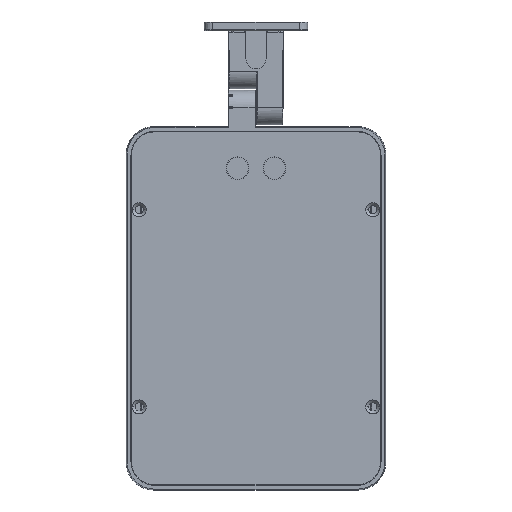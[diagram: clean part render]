
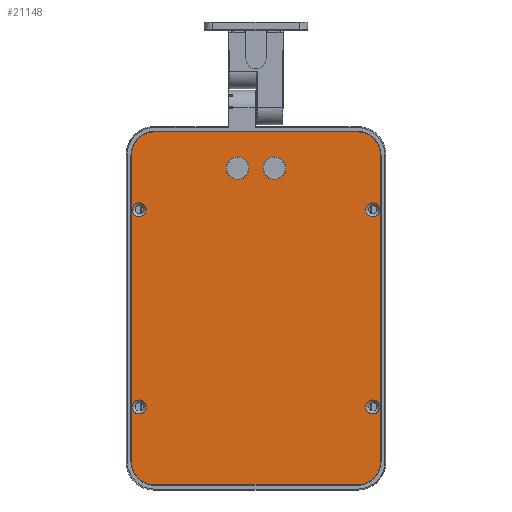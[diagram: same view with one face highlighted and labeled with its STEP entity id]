
A CAD part, front view. The second image highlights one B-rep face of the part: STEP entity #21148.
In plain terms, the highlighted planar face has unit normal (0, -1, 0).
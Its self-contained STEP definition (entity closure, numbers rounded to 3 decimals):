
#8766=CARTESIAN_POINT('',(67.5,0.5,57.));
#8767=DIRECTION('',(0.,-1.,0.));
#8768=DIRECTION('',(1.,0.,0.));
#8769=AXIS2_PLACEMENT_3D('',#8766,#8767,#8768);
#8771=CARTESIAN_POINT('',(67.5,0.5,57.));
#8772=DIRECTION('',(0.,-1.,0.));
#8773=DIRECTION('',(-1.,0.,0.));
#8774=AXIS2_PLACEMENT_3D('',#8771,#8772,#8773);
#8776=CARTESIAN_POINT('',(-67.5,0.5,-57.));
#8777=DIRECTION('',(0.,-1.,0.));
#8778=DIRECTION('',(-1.,0.,0.));
#8779=AXIS2_PLACEMENT_3D('',#8776,#8777,#8778);
#8781=CARTESIAN_POINT('',(-67.5,0.5,-57.));
#8782=DIRECTION('',(0.,-1.,0.));
#8783=DIRECTION('',(1.,0.,0.));
#8784=AXIS2_PLACEMENT_3D('',#8781,#8782,#8783);
#8786=CARTESIAN_POINT('',(-67.5,0.5,57.));
#8787=DIRECTION('',(0.,-1.,0.));
#8788=DIRECTION('',(1.,0.,0.));
#8789=AXIS2_PLACEMENT_3D('',#8786,#8787,#8788);
#8791=CARTESIAN_POINT('',(-67.5,0.5,57.));
#8792=DIRECTION('',(0.,-1.,0.));
#8793=DIRECTION('',(-1.,0.,0.));
#8794=AXIS2_PLACEMENT_3D('',#8791,#8792,#8793);
#8796=CARTESIAN_POINT('',(67.5,0.5,-57.));
#8797=DIRECTION('',(0.,-1.,0.));
#8798=DIRECTION('',(-1.,0.,0.));
#8799=AXIS2_PLACEMENT_3D('',#8796,#8797,#8798);
#8801=CARTESIAN_POINT('',(67.5,0.5,-57.));
#8802=DIRECTION('',(0.,-1.,0.));
#8803=DIRECTION('',(1.,0.,0.));
#8804=AXIS2_PLACEMENT_3D('',#8801,#8802,#8803);
#8806=CARTESIAN_POINT('',(58.5,0.5,-88.5));
#8807=DIRECTION('',(0.,1.,0.));
#8808=DIRECTION('',(1.,0.,0.));
#8809=AXIS2_PLACEMENT_3D('',#8806,#8807,#8808);
#8811=DIRECTION('',(-1.,0.,0.));
#8812=VECTOR('',#8811,117.);
#8813=CARTESIAN_POINT('',(58.5,0.5,-102.));
#8814=LINE('',#8813,#8812);
#8815=CARTESIAN_POINT('',(-58.5,0.5,-88.5));
#8816=DIRECTION('',(0.,1.,0.));
#8817=DIRECTION('',(0.,0.,-1.));
#8818=AXIS2_PLACEMENT_3D('',#8815,#8816,#8817);
#8820=DIRECTION('',(0.,0.,1.));
#8821=VECTOR('',#8820,177.);
#8822=CARTESIAN_POINT('',(-72.,0.5,-88.5));
#8823=LINE('',#8822,#8821);
#8824=CARTESIAN_POINT('',(-58.5,0.5,88.5));
#8825=DIRECTION('',(0.,1.,0.));
#8826=DIRECTION('',(-1.,0.,0.));
#8827=AXIS2_PLACEMENT_3D('',#8824,#8825,#8826);
#8829=DIRECTION('',(1.,0.,0.));
#8830=VECTOR('',#8829,117.);
#8831=CARTESIAN_POINT('',(-58.5,0.5,102.));
#8832=LINE('',#8831,#8830);
#8833=CARTESIAN_POINT('',(58.5,0.5,88.5));
#8834=DIRECTION('',(0.,1.,0.));
#8835=DIRECTION('',(0.,0.,1.));
#8836=AXIS2_PLACEMENT_3D('',#8833,#8834,#8835);
#8838=DIRECTION('',(0.,0.,-1.));
#8839=VECTOR('',#8838,177.);
#8840=CARTESIAN_POINT('',(72.,0.5,88.5));
#8841=LINE('',#8840,#8839);
#8842=CARTESIAN_POINT('',(-10.65,0.5,81.));
#8843=DIRECTION('',(0.,-1.,0.));
#8844=DIRECTION('',(1.,0.,0.));
#8845=AXIS2_PLACEMENT_3D('',#8842,#8843,#8844);
#8847=CARTESIAN_POINT('',(-10.65,0.5,81.));
#8848=DIRECTION('',(0.,-1.,0.));
#8849=DIRECTION('',(-1.,0.,0.));
#8850=AXIS2_PLACEMENT_3D('',#8847,#8848,#8849);
#8852=CARTESIAN_POINT('',(10.65,0.5,81.));
#8853=DIRECTION('',(0.,-1.,0.));
#8854=DIRECTION('',(1.,0.,0.));
#8855=AXIS2_PLACEMENT_3D('',#8852,#8853,#8854);
#8857=CARTESIAN_POINT('',(10.65,0.5,81.));
#8858=DIRECTION('',(0.,-1.,0.));
#8859=DIRECTION('',(-1.,0.,0.));
#8860=AXIS2_PLACEMENT_3D('',#8857,#8858,#8859);
#18368=CARTESIAN_POINT('',(71.55,0.5,57.));
#18369=CARTESIAN_POINT('',(63.45,0.5,57.));
#18370=VERTEX_POINT('',#18368);
#18371=VERTEX_POINT('',#18369);
#18376=CARTESIAN_POINT('',(58.5,0.5,-102.));
#18377=CARTESIAN_POINT('',(72.,0.5,-88.5));
#18378=VERTEX_POINT('',#18376);
#18379=VERTEX_POINT('',#18377);
#18380=CARTESIAN_POINT('',(72.,0.5,88.5));
#18381=VERTEX_POINT('',#18380);
#18382=CARTESIAN_POINT('',(58.5,0.5,102.));
#18383=VERTEX_POINT('',#18382);
#18384=CARTESIAN_POINT('',(-58.5,0.5,102.));
#18385=VERTEX_POINT('',#18384);
#18386=CARTESIAN_POINT('',(-72.,0.5,88.5));
#18387=VERTEX_POINT('',#18386);
#18388=CARTESIAN_POINT('',(-72.,0.5,-88.5));
#18389=VERTEX_POINT('',#18388);
#18390=CARTESIAN_POINT('',(-58.5,0.5,-102.));
#18391=VERTEX_POINT('',#18390);
#18412=CARTESIAN_POINT('',(-71.55,0.5,-57.));
#18413=CARTESIAN_POINT('',(-63.45,0.5,-57.));
#18414=VERTEX_POINT('',#18412);
#18415=VERTEX_POINT('',#18413);
#18424=CARTESIAN_POINT('',(-71.55,0.5,57.));
#18425=CARTESIAN_POINT('',(-63.45,0.5,57.));
#18426=VERTEX_POINT('',#18424);
#18427=VERTEX_POINT('',#18425);
#18428=CARTESIAN_POINT('',(71.55,0.5,-57.));
#18429=CARTESIAN_POINT('',(63.45,0.5,-57.));
#18430=VERTEX_POINT('',#18428);
#18431=VERTEX_POINT('',#18429);
#18718=CARTESIAN_POINT('',(-17.2,0.5,81.));
#18719=CARTESIAN_POINT('',(-4.1,0.5,81.));
#18720=VERTEX_POINT('',#18718);
#18721=VERTEX_POINT('',#18719);
#18722=CARTESIAN_POINT('',(4.1,0.5,81.));
#18723=CARTESIAN_POINT('',(17.2,0.5,81.));
#18724=VERTEX_POINT('',#18722);
#18725=VERTEX_POINT('',#18723);
#21089=CARTESIAN_POINT('',(0.,0.5,0.));
#21090=DIRECTION('',(0.,1.,0.));
#21091=DIRECTION('',(1.,0.,0.));
#21092=AXIS2_PLACEMENT_3D('',#21089,#21090,#21091);
#21093=PLANE('',#21092);
#21095=ORIENTED_EDGE('',*,*,#21094,.T.);
#21097=ORIENTED_EDGE('',*,*,#21096,.T.);
#21099=ORIENTED_EDGE('',*,*,#21098,.T.);
#21101=ORIENTED_EDGE('',*,*,#21100,.T.);
#21103=ORIENTED_EDGE('',*,*,#21102,.T.);
#21105=ORIENTED_EDGE('',*,*,#21104,.T.);
#21107=ORIENTED_EDGE('',*,*,#21106,.T.);
#21109=ORIENTED_EDGE('',*,*,#21108,.T.);
#21110=EDGE_LOOP('',(#21095,#21097,#21099,#21101,#21103,#21105,#21107,#21109));
#21111=FACE_OUTER_BOUND('',#21110,.F.);
#21113=ORIENTED_EDGE('',*,*,#21112,.T.);
#21115=ORIENTED_EDGE('',*,*,#21114,.T.);
#21116=EDGE_LOOP('',(#21113,#21115));
#21117=FACE_BOUND('',#21116,.F.);
#21119=ORIENTED_EDGE('',*,*,#21118,.T.);
#21121=ORIENTED_EDGE('',*,*,#21120,.T.);
#21122=EDGE_LOOP('',(#21119,#21121));
#21123=FACE_BOUND('',#21122,.F.);
#21125=ORIENTED_EDGE('',*,*,#21124,.T.);
#21127=ORIENTED_EDGE('',*,*,#21126,.T.);
#21128=EDGE_LOOP('',(#21125,#21127));
#21129=FACE_BOUND('',#21128,.F.);
#21131=ORIENTED_EDGE('',*,*,#21130,.T.);
#21133=ORIENTED_EDGE('',*,*,#21132,.T.);
#21134=EDGE_LOOP('',(#21131,#21133));
#21135=FACE_BOUND('',#21134,.F.);
#21137=ORIENTED_EDGE('',*,*,#21136,.T.);
#21139=ORIENTED_EDGE('',*,*,#21138,.T.);
#21140=EDGE_LOOP('',(#21137,#21139));
#21141=FACE_BOUND('',#21140,.F.);
#21143=ORIENTED_EDGE('',*,*,#21142,.T.);
#21145=ORIENTED_EDGE('',*,*,#21144,.T.);
#21146=EDGE_LOOP('',(#21143,#21145));
#21147=FACE_BOUND('',#21146,.F.);
#21148=ADVANCED_FACE('',(#21111,#21117,#21123,#21129,#21135,#21141,#21147),
#21093,.F.);
#8770=CIRCLE('',#8769,4.05);
#8775=CIRCLE('',#8774,4.05);
#8780=CIRCLE('',#8779,4.05);
#8785=CIRCLE('',#8784,4.05);
#8790=CIRCLE('',#8789,4.05);
#8795=CIRCLE('',#8794,4.05);
#8800=CIRCLE('',#8799,4.05);
#8805=CIRCLE('',#8804,4.05);
#8810=CIRCLE('',#8809,13.5);
#8819=CIRCLE('',#8818,13.5);
#8828=CIRCLE('',#8827,13.5);
#8837=CIRCLE('',#8836,13.5);
#8846=CIRCLE('',#8845,6.55);
#8851=CIRCLE('',#8850,6.55);
#8856=CIRCLE('',#8855,6.55);
#8861=CIRCLE('',#8860,6.55);
#21094=EDGE_CURVE('',#18379,#18378,#8810,.T.);
#21096=EDGE_CURVE('',#18378,#18391,#8814,.T.);
#21098=EDGE_CURVE('',#18391,#18389,#8819,.T.);
#21100=EDGE_CURVE('',#18389,#18387,#8823,.T.);
#21102=EDGE_CURVE('',#18387,#18385,#8828,.T.);
#21104=EDGE_CURVE('',#18385,#18383,#8832,.T.);
#21106=EDGE_CURVE('',#18383,#18381,#8837,.T.);
#21108=EDGE_CURVE('',#18381,#18379,#8841,.T.);
#21112=EDGE_CURVE('',#18414,#18415,#8780,.T.);
#21114=EDGE_CURVE('',#18415,#18414,#8785,.T.);
#21118=EDGE_CURVE('',#18427,#18426,#8790,.T.);
#21120=EDGE_CURVE('',#18426,#18427,#8795,.T.);
#21124=EDGE_CURVE('',#18431,#18430,#8800,.T.);
#21126=EDGE_CURVE('',#18430,#18431,#8805,.T.);
#21130=EDGE_CURVE('',#18370,#18371,#8770,.T.);
#21132=EDGE_CURVE('',#18371,#18370,#8775,.T.);
#21136=EDGE_CURVE('',#18721,#18720,#8846,.T.);
#21138=EDGE_CURVE('',#18720,#18721,#8851,.T.);
#21142=EDGE_CURVE('',#18725,#18724,#8856,.T.);
#21144=EDGE_CURVE('',#18724,#18725,#8861,.T.);
